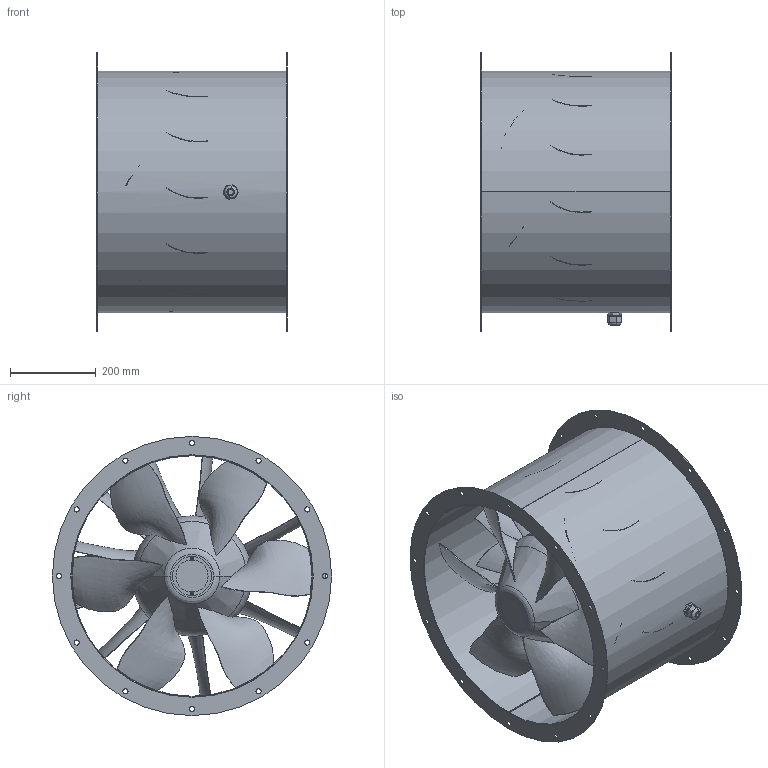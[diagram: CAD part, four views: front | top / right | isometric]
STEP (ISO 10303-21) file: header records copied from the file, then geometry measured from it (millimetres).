
FILE_DESCRIPTION (( 'STEP AP203' ), '1' );
FILE_NAME ('154158-00_AL560D401_step.step', '2020-05-29T11:22:35', ( '' ), ( '' ), 'SwSTEP 2.0', 'SolidWorks 2017', '' );
FILE_SCHEMA (( 'CONFIG_CONTROL_DESIGN' ));
Length unit declared in the file: millimetre
Products named in the file (1): 154158-00_AL560D401_step
Bounding box: 443 x 650 x 650 mm (x, y, z)
Surface area: 3178705.9 mm2 (no closed solid volume)
Topology: 0 solids, 48 shells, 1069 faces, 4091 edges, 2977 vertices
Faces by surface type: plane 787, cylinder 175, bspline 65, torus 30, cone 12
Entity records: 410347 total; most frequent: CARTESIAN_POINT 378119, ORIENTED_EDGE 6169, DIRECTION 5934, EDGE_CURVE 4089, VERTEX_POINT 2977, LINE 2862, VECTOR 2862, AXIS2_PLACEMENT_3D 1536
